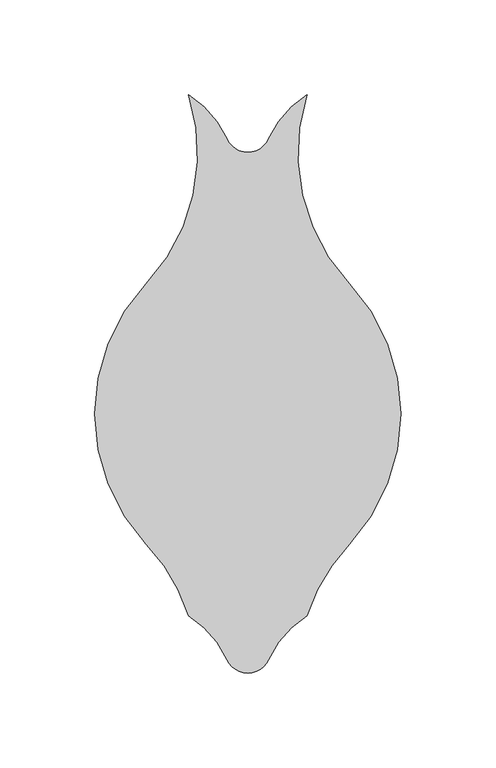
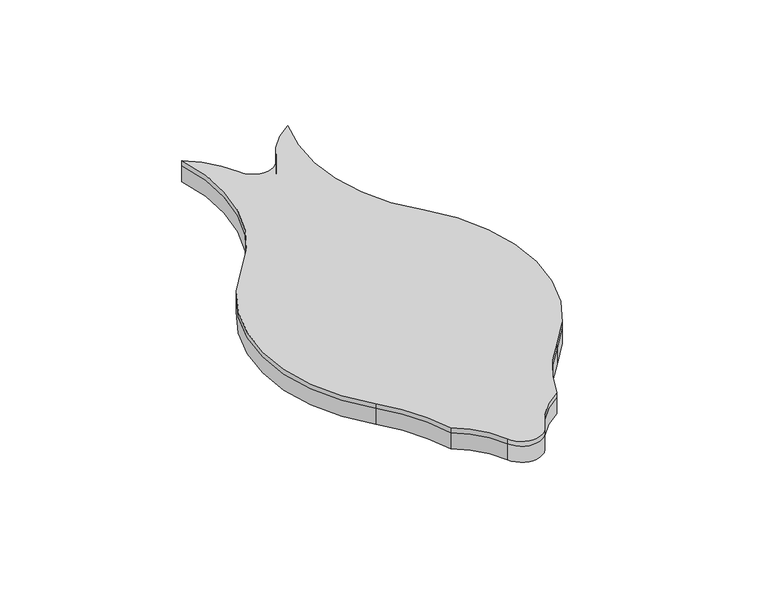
"""IFC4 building model written with IfcOpenShell, lengths in millimetres: proxy geometry, FilzFelt_Fish_Block : Fish Block."""

from ifc_helpers import new_model, si_unit, frame, origin, place, context, project, spatial, polyline, circle_curve, source, transform, mapped, element, save
from ifc_brep_helpers import plane_surface, cylinder_surface, revolved_surface, advanced_brep


def specialty_equipment_d7a9fa1d(model_context):
    return source(origin(), model_context, "Body", "AdvancedBrep", [
        advanced_brep(
        [(53.5486457, -68.6120133, 10.0210937), (31.2619065, -106.3338576, 10.0210937), (11.0103348, -129.4133496, 10.0210937), (-11.0103348, -129.4133496, 10.0210937), (-31.2619065, -106.3338576, 10.0210937), (-53.5486457, -68.6120133, 10.0210937), (-53.5486457, 68.6120133, 10.0210937), (-31.2619065, 168.1141956, 10.0210937), (-11.0103348, 145.0347036, 10.0210937), (11.0103348, 145.0347036, 10.0210937), (31.2619065, 168.1141956, 10.0210937), (53.5486457, 68.6120133, 10.0210937), (53.5486457, -68.6120133, 12.9976563), (80.7142226, 0.0, 12.9976563), (53.5486457, 68.6120133, 12.9976563), (31.2619065, 168.1141956, 12.9976563), (11.0103348, 145.0347036, 12.9976563), (-11.0103348, 145.0347036, 12.9976563), (-31.2619065, 168.1141956, 12.9976563), (-53.5486457, 68.6120133, 12.9976563), (-53.5486457, -68.6120133, 12.9976563), (-31.2619065, -106.3338576, 12.9976563), (-11.0103348, -129.4133496, 12.9976563), (0.0, -136.5838795, 12.9976563), (11.0103348, -129.4133496, 12.9976563), (31.2619065, -106.3338576, 12.9976563)],
        [
            (0, 1, circle_curve(frame((126.6124317, -137.2240266, 10.0210937), z_axis=(0.0, 0.0, 1.0), x_axis=(-1.0, 0.0, 0.0)), 100.2293629)),
            (1, 2, circle_curve(frame((57.9263497, -150.1559416, 10.0210937), z_axis=(0.0, 0.0, 1.0), x_axis=(-1.0, 0.0, 0.0)), 51.2968574)),
            (2, 3, circle_curve(frame((0.0, -124.5454408, 10.0210937), z_axis=(0.0, 0.0, -1.0), x_axis=(-1.0, 0.0, 0.0)), 12.0384388)),
            (3, 4, circle_curve(frame((-57.9263497, -150.1559416, 10.0210937), z_axis=(0.0, 0.0, 1.0), x_axis=(-1.0, 0.0, 0.0)), 51.2968574)),
            (4, 5, circle_curve(frame((-126.6124317, -137.2240266, 10.0210937), z_axis=(0.0, 0.0, 1.0), x_axis=(-1.0, 0.0, 0.0)), 100.2293629)),
            (5, 6, circle_curve(frame((19.5151403, 0.0, 10.0210937), z_axis=(0.0, 0.0, -1.0), x_axis=(-1.0, 0.0, 0.0)), 100.2293629)),
            (6, 7, circle_curve(frame((-126.6124317, 137.2240266, 10.0210937), z_axis=(0.0, 0.0, 1.0), x_axis=(-1.0, 0.0, 0.0)), 100.2293629)),
            (7, 8, circle_curve(frame((-57.9263497, 124.2921115, 10.0210937), z_axis=(0.0, 0.0, -1.0), x_axis=(-1.0, 0.0, 0.0)), 51.2968574)),
            (8, 9, circle_curve(frame((0.0, 149.9026124, 10.0210937), z_axis=(0.0, 0.0, 1.0), x_axis=(-1.0, 0.0, 0.0)), 12.0384388)),
            (9, 10, circle_curve(frame((57.9263497, 124.2921115, 10.0210937), z_axis=(0.0, 0.0, -1.0), x_axis=(-1.0, 0.0, 0.0)), 51.2968574)),
            (10, 11, circle_curve(frame((126.6124317, 137.2240266, 10.0210937), z_axis=(0.0, 0.0, 1.0), x_axis=(-1.0, 0.0, 0.0)), 100.2293629)),
            (11, 0, circle_curve(frame((-19.5151403, 0.0, 10.0210937), z_axis=(0.0, 0.0, -1.0), x_axis=(-1.0, 0.0, 0.0)), 100.2293629)),
            (12, 13, circle_curve(frame((-19.5151403, 0.0, 12.9976563), z_axis=(0.0, 0.0, 1.0), x_axis=(-1.0, 0.0, 0.0)), 100.2293629)),
            (13, 14, circle_curve(frame((-19.5151403, 0.0, 12.9976563), z_axis=(0.0, 0.0, 1.0), x_axis=(-1.0, 0.0, 0.0)), 100.2293629)),
            (14, 15, circle_curve(frame((126.6124317, 137.2240266, 12.9976563), z_axis=(0.0, 0.0, -1.0), x_axis=(-1.0, 0.0, 0.0)), 100.2293629)),
            (15, 16, circle_curve(frame((57.9263497, 124.2921115, 12.9976563), z_axis=(0.0, 0.0, 1.0), x_axis=(-1.0, 0.0, 0.0)), 51.2968574)),
            (16, 17, circle_curve(frame((0.0, 149.9026124, 12.9976563), z_axis=(0.0, 0.0, -1.0), x_axis=(-1.0, 0.0, 0.0)), 12.0384388)),
            (17, 18, circle_curve(frame((-57.9263497, 124.2921115, 12.9976563), z_axis=(0.0, 0.0, 1.0), x_axis=(-1.0, 0.0, 0.0)), 51.2968574)),
            (18, 19, circle_curve(frame((-126.6124317, 137.2240266, 12.9976563), z_axis=(0.0, 0.0, -1.0), x_axis=(-1.0, 0.0, 0.0)), 100.2293629)),
            (19, 20, circle_curve(frame((19.5151403, 0.0, 12.9976563), z_axis=(0.0, 0.0, 1.0), x_axis=(-1.0, 0.0, 0.0)), 100.2293629)),
            (20, 21, circle_curve(frame((-126.6124317, -137.2240266, 12.9976563), z_axis=(0.0, 0.0, -1.0), x_axis=(-1.0, 0.0, 0.0)), 100.2293629)),
            (21, 22, circle_curve(frame((-57.9263497, -150.1559416, 12.9976563), z_axis=(0.0, 0.0, -1.0), x_axis=(-1.0, 0.0, 0.0)), 51.2968574)),
            (22, 23, circle_curve(frame((0.0, -124.5454408, 12.9976563), z_axis=(0.0, 0.0, 1.0), x_axis=(-1.0, 0.0, 0.0)), 12.0384388)),
            (23, 24, circle_curve(frame((0.0, -124.5454408, 12.9976563), z_axis=(0.0, 0.0, 1.0), x_axis=(-1.0, 0.0, 0.0)), 12.0384388)),
            (24, 25, circle_curve(frame((57.9263497, -150.1559416, 12.9976563), z_axis=(0.0, 0.0, -1.0), x_axis=(-1.0, 0.0, 0.0)), 51.2968574)),
            (25, 12, circle_curve(frame((126.6124317, -137.2240266, 12.9976563), z_axis=(0.0, 0.0, -1.0), x_axis=(-1.0, 0.0, 0.0)), 100.2293629)),
            (11, 14),
            (12, 0),
            (10, 15),
            (9, 16),
            (8, 17),
            (7, 18),
            (6, 19),
            (5, 20),
            (4, 21),
            (3, 22),
            (2, 24),
            (1, 25),
        ],
        [
            plane_surface(frame((0.0, 0.0, 10.0210937), z_axis=(0.0, 0.0, -1.0), x_axis=(0.0, 1.0, 0.0))),
            plane_surface(frame((0.0, 0.0, 12.9976563), z_axis=(0.0, 0.0, 1.0), x_axis=(0.0, 1.0, 0.0))),
            cylinder_surface(frame((-19.5151403, 0.0, 10.0210937), z_axis=(0.0, 0.0, -1.0), x_axis=(-1.0, 0.0, 0.0)), 100.2293629),
            revolved_surface(polyline([(26.383068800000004, 137.2240266, 12.9976563), (26.383068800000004, 137.2240266, 10.0210937)]), (126.6124317, 137.2240266, 10.0210937), (0.0, 0.0, 1.0)),
            cylinder_surface(frame((57.9263497, 124.2921115, 10.0210937), z_axis=(0.0, 0.0, -1.0), x_axis=(-1.0, 0.0, 0.0)), 51.2968574),
            revolved_surface(polyline([(-12.0384388, 149.9026124, 12.9976563), (-12.0384388, 149.9026124, 10.0210937)]), (0.0, 149.9026124, 10.0210937), (0.0, 0.0, 1.0)),
            cylinder_surface(frame((-57.9263497, 124.2921115, 10.0210937), z_axis=(0.0, 0.0, -1.0), x_axis=(-1.0, 0.0, 0.0)), 51.2968574),
            revolved_surface(polyline([(-226.84179460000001, 137.2240266, 12.9976563), (-226.84179460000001, 137.2240266, 10.0210937)]), (-126.6124317, 137.2240266, 10.0210937), (0.0, 0.0, 1.0)),
            cylinder_surface(frame((19.5151403, 0.0, 10.0210937), z_axis=(0.0, 0.0, -1.0), x_axis=(-1.0, 0.0, 0.0)), 100.2293629),
            revolved_surface(polyline([(-226.84179460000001, -137.2240266, 12.9976563), (-226.84179460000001, -137.2240266, 10.0210937)]), (-126.6124317, -137.2240266, 10.0210937), (0.0, 0.0, 1.0)),
            revolved_surface(polyline([(-109.2232071, -150.1559416, 12.9976563), (-109.2232071, -150.1559416, 10.0210937)]), (-57.9263497, -150.1559416, 10.0210937), (0.0, 0.0, 1.0)),
            cylinder_surface(frame((0.0, -124.5454408, 10.0210937), z_axis=(0.0, 0.0, -1.0), x_axis=(-1.0, 0.0, 0.0)), 12.0384388),
            revolved_surface(polyline([(6.629492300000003, -150.1559416, 12.9976563), (6.629492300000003, -150.1559416, 10.0210937)]), (57.9263497, -150.1559416, 10.0210937), (0.0, 0.0, 1.0)),
            revolved_surface(polyline([(26.383068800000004, -137.2240266, 12.9976563), (26.383068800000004, -137.2240266, 10.0210937)]), (126.6124317, -137.2240266, 10.0210937), (0.0, 0.0, 1.0)),
        ],
        [
            (0, [[1, 2, 3, 4, 5, 6, 7, 8, 9, 10, 11, 12]]),
            (1, [[13, 14, 15, 16, 17, 18, 19, 20, 21, 22, 23, 24, 25, 26]]),
            (2, [[27, -14, -13, 28, -12]]),
            (3, [[29, -15, -27, -11]]),
            (4, [[30, -16, -29, -10]]),
            (5, [[31, -17, -30, -9]]),
            (6, [[32, -18, -31, -8]]),
            (7, [[33, -19, -32, -7]]),
            (8, [[34, -20, -33, -6]]),
            (9, [[35, -21, -34, -5]]),
            (10, [[36, -22, -35, -4]]),
            (11, [[37, -24, -23, -36, -3]]),
            (12, [[38, -25, -37, -2]]),
            (13, [[-28, -26, -38, -1]]),
        ],
    ),
        advanced_brep(
        [(31.2619065, 168.1141956, 0.0), (53.5486457, 68.6120133, 0.0), (80.7142226, 0.0, 0.0), (53.5486457, -68.6120133, 0.0), (31.2619065, -106.3338576, 0.0), (11.0103348, -129.4133496, 0.0), (0.0, -136.5838795, 0.0), (-11.0103348, -129.4133496, 0.0), (-31.2619065, -106.3338576, 0.0), (-53.5486457, -68.6120133, 0.0), (-53.5486457, 68.6120133, 0.0), (-31.2619065, 168.1141956, 0.0), (-11.0103348, 145.0347036, 0.0), (11.0103348, 145.0347036, 0.0), (31.2619065, 168.1141956, 10.0210937), (11.0103348, 145.0347036, 10.0210937), (-11.0103348, 145.0347036, 10.0210937), (-31.2619065, 168.1141956, 10.0210937), (-53.5486457, 68.6120133, 10.0210937), (-53.5486457, -68.6120133, 10.0210937), (-31.2619065, -106.3338576, 10.0210937), (-11.0103348, -129.4133496, 10.0210937), (11.0103348, -129.4133496, 10.0210937), (31.2619065, -106.3338576, 10.0210937), (53.5486457, -68.6120133, 10.0210937), (53.5486457, 68.6120133, 10.0210937)],
        [
            (0, 1, circle_curve(frame((126.6124317, 137.2240266, 0.0), z_axis=(0.0, 0.0, 1.0), x_axis=(-1.0, 0.0, 0.0)), 100.2293629)),
            (1, 2, circle_curve(frame((-19.5151403, 0.0, 0.0), z_axis=(0.0, 0.0, -1.0), x_axis=(-1.0, 0.0, 0.0)), 100.2293629)),
            (2, 3, circle_curve(frame((-19.5151403, 0.0, 0.0), z_axis=(0.0, 0.0, -1.0), x_axis=(-1.0, 0.0, 0.0)), 100.2293629)),
            (3, 4, circle_curve(frame((126.6124317, -137.2240266, 0.0), z_axis=(0.0, 0.0, 1.0), x_axis=(-1.0, 0.0, 0.0)), 100.2293629)),
            (4, 5, circle_curve(frame((57.9263497, -150.1559416, 0.0), z_axis=(0.0, 0.0, 1.0), x_axis=(-1.0, 0.0, 0.0)), 51.2968574)),
            (5, 6, circle_curve(frame((0.0, -124.5454408, 0.0), z_axis=(0.0, 0.0, -1.0), x_axis=(-1.0, 0.0, 0.0)), 12.0384388)),
            (6, 7, circle_curve(frame((0.0, -124.5454408, 0.0), z_axis=(0.0, 0.0, -1.0), x_axis=(-1.0, 0.0, 0.0)), 12.0384388)),
            (7, 8, circle_curve(frame((-57.9263497, -150.1559416, 0.0), z_axis=(0.0, 0.0, 1.0), x_axis=(-1.0, 0.0, 0.0)), 51.2968574)),
            (8, 9, circle_curve(frame((-126.6124317, -137.2240266, 0.0), z_axis=(0.0, 0.0, 1.0), x_axis=(-1.0, 0.0, 0.0)), 100.2293629)),
            (9, 10, circle_curve(frame((19.5151403, 0.0, 0.0), z_axis=(0.0, 0.0, -1.0), x_axis=(-1.0, 0.0, 0.0)), 100.2293629)),
            (10, 11, circle_curve(frame((-126.6124317, 137.2240266, 0.0), z_axis=(0.0, 0.0, 1.0), x_axis=(-1.0, 0.0, 0.0)), 100.2293629)),
            (11, 12, circle_curve(frame((-57.9263497, 124.2921115, 0.0), z_axis=(0.0, 0.0, -1.0), x_axis=(-1.0, 0.0, 0.0)), 51.2968574)),
            (12, 13, circle_curve(frame((0.0, 149.9026124, 0.0), z_axis=(0.0, 0.0, 1.0), x_axis=(-1.0, 0.0, 0.0)), 12.0384388)),
            (13, 0, circle_curve(frame((57.9263497, 124.2921115, 0.0), z_axis=(0.0, 0.0, -1.0), x_axis=(-1.0, 0.0, 0.0)), 51.2968574)),
            (14, 15, circle_curve(frame((57.9263497, 124.2921115, 10.0210937), z_axis=(0.0, 0.0, 1.0), x_axis=(-1.0, 0.0, 0.0)), 51.2968574)),
            (15, 16, circle_curve(frame((0.0, 149.9026124, 10.0210937), z_axis=(0.0, 0.0, -1.0), x_axis=(-1.0, 0.0, 0.0)), 12.0384388)),
            (16, 17, circle_curve(frame((-57.9263497, 124.2921115, 10.0210937), z_axis=(0.0, 0.0, 1.0), x_axis=(-1.0, 0.0, 0.0)), 51.2968574)),
            (17, 18, circle_curve(frame((-126.6124317, 137.2240266, 10.0210937), z_axis=(0.0, 0.0, -1.0), x_axis=(-1.0, 0.0, 0.0)), 100.2293629)),
            (18, 19, circle_curve(frame((19.5151403, 0.0, 10.0210937), z_axis=(0.0, 0.0, 1.0), x_axis=(-1.0, 0.0, 0.0)), 100.2293629)),
            (19, 20, circle_curve(frame((-126.6124317, -137.2240266, 10.0210937), z_axis=(0.0, 0.0, -1.0), x_axis=(-1.0, 0.0, 0.0)), 100.2293629)),
            (20, 21, circle_curve(frame((-57.9263497, -150.1559416, 10.0210937), z_axis=(0.0, 0.0, -1.0), x_axis=(-1.0, 0.0, 0.0)), 51.2968574)),
            (21, 22, circle_curve(frame((0.0, -124.5454408, 10.0210937), z_axis=(0.0, 0.0, 1.0), x_axis=(-1.0, 0.0, 0.0)), 12.0384388)),
            (22, 23, circle_curve(frame((57.9263497, -150.1559416, 10.0210937), z_axis=(0.0, 0.0, -1.0), x_axis=(-1.0, 0.0, 0.0)), 51.2968574)),
            (23, 24, circle_curve(frame((126.6124317, -137.2240266, 10.0210937), z_axis=(0.0, 0.0, -1.0), x_axis=(-1.0, 0.0, 0.0)), 100.2293629)),
            (24, 25, circle_curve(frame((-19.5151403, 0.0, 10.0210937), z_axis=(0.0, 0.0, 1.0), x_axis=(-1.0, 0.0, 0.0)), 100.2293629)),
            (25, 14, circle_curve(frame((126.6124317, 137.2240266, 10.0210937), z_axis=(0.0, 0.0, -1.0), x_axis=(-1.0, 0.0, 0.0)), 100.2293629)),
            (13, 15),
            (14, 0),
            (12, 16),
            (11, 17),
            (10, 18),
            (9, 19),
            (8, 20),
            (7, 21),
            (5, 22),
            (4, 23),
            (3, 24),
            (1, 25),
        ],
        [
            plane_surface(frame((0.0, 0.0, 0.0), z_axis=(0.0, 0.0, -1.0), x_axis=(0.0, 1.0, 0.0))),
            plane_surface(frame((0.0, 0.0, 10.0210937), z_axis=(0.0, 0.0, 1.0), x_axis=(0.0, 1.0, 0.0))),
            cylinder_surface(frame((57.9263497, 124.2921115, 0.0), z_axis=(0.0, 0.0, -1.0), x_axis=(-1.0, 0.0, 0.0)), 51.2968574),
            revolved_surface(polyline([(-12.0384388, 149.9026124, 10.0210937), (-12.0384388, 149.9026124, 0.0)]), (0.0, 149.9026124, 0.0), (0.0, 0.0, 1.0)),
            cylinder_surface(frame((-57.9263497, 124.2921115, 0.0), z_axis=(0.0, 0.0, -1.0), x_axis=(-1.0, 0.0, 0.0)), 51.2968574),
            revolved_surface(polyline([(-226.84179460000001, 137.2240266, 10.0210937), (-226.84179460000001, 137.2240266, 0.0)]), (-126.6124317, 137.2240266, 0.0), (0.0, 0.0, 1.0)),
            cylinder_surface(frame((19.5151403, 0.0, 0.0), z_axis=(0.0, 0.0, -1.0), x_axis=(-1.0, 0.0, 0.0)), 100.2293629),
            revolved_surface(polyline([(-226.84179460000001, -137.2240266, 10.0210937), (-226.84179460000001, -137.2240266, 0.0)]), (-126.6124317, -137.2240266, 0.0), (0.0, 0.0, 1.0)),
            revolved_surface(polyline([(-109.2232071, -150.1559416, 10.0210937), (-109.2232071, -150.1559416, 0.0)]), (-57.9263497, -150.1559416, 0.0), (0.0, 0.0, 1.0)),
            cylinder_surface(frame((0.0, -124.5454408, 0.0), z_axis=(0.0, 0.0, -1.0), x_axis=(-1.0, 0.0, 0.0)), 12.0384388),
            revolved_surface(polyline([(6.629492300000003, -150.1559416, 10.0210937), (6.629492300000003, -150.1559416, 0.0)]), (57.9263497, -150.1559416, 0.0), (0.0, 0.0, 1.0)),
            revolved_surface(polyline([(26.383068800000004, -137.2240266, 10.0210937), (26.383068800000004, -137.2240266, 0.0)]), (126.6124317, -137.2240266, 0.0), (0.0, 0.0, 1.0)),
            cylinder_surface(frame((-19.5151403, 0.0, 0.0), z_axis=(0.0, 0.0, -1.0), x_axis=(-1.0, 0.0, 0.0)), 100.2293629),
            revolved_surface(polyline([(26.383068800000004, 137.2240266, 10.0210937), (26.383068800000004, 137.2240266, 0.0)]), (126.6124317, 137.2240266, 0.0), (0.0, 0.0, 1.0)),
        ],
        [
            (0, [[1, 2, 3, 4, 5, 6, 7, 8, 9, 10, 11, 12, 13, 14]]),
            (1, [[15, 16, 17, 18, 19, 20, 21, 22, 23, 24, 25, 26]]),
            (2, [[27, -15, 28, -14]]),
            (3, [[29, -16, -27, -13]]),
            (4, [[30, -17, -29, -12]]),
            (5, [[31, -18, -30, -11]]),
            (6, [[32, -19, -31, -10]]),
            (7, [[33, -20, -32, -9]]),
            (8, [[34, -21, -33, -8]]),
            (9, [[-34, -7, -6, 35, -22]]),
            (10, [[36, -23, -35, -5]]),
            (11, [[37, -24, -36, -4]]),
            (12, [[-37, -3, -2, 38, -25]]),
            (13, [[-28, -26, -38, -1]]),
        ],
    ),
    ])


if __name__ == "__main__":
    model = new_model("IFC4")
    model_context = context("Model", 3, world=origin())
    ifc_project = project(units=[si_unit("LENGTHUNIT", "METRE", prefix="MILLI")], contexts=[model_context])
    site = spatial("IfcSite", under=ifc_project)
    building = spatial("IfcBuilding", under=site)
    placement = place(None, origin())
    specialty_equipment_shape = specialty_equipment_d7a9fa1d(model_context)
    element("IfcBuildingElementProxy", 1, Name="FilzFelt_Fish_Block : Fish Block", ObjectType="FilzFelt_Fish_Block : Fish Block", at=placement, inside=building, context=model_context, shape_type="MappedRepresentation", body=[
        mapped(specialty_equipment_shape, transform((0.0, 0.0, 0.0), x_axis=(1.0, 0.0, 0.0), y_axis=(0.0, 1.0, 0.0), z_axis=(0.0, 0.0, 1.0))),
    ])
    save(model, "model.ifc")
